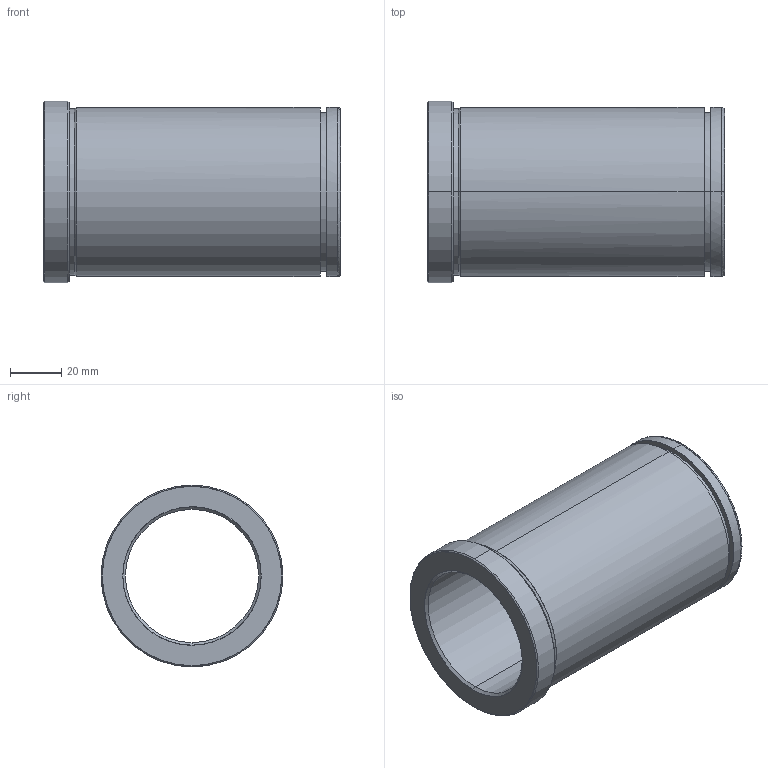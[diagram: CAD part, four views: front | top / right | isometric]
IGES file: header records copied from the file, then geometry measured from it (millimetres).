
Start section: START RECORD GO HERE.
Global section: file name: 553-52X116.igs; native system: DASSAULT SYSTEMES CATIA V5 R20 - www.3ds.com; preprocessor: CATIA Version 5 Release 20 ; author: Utente; organization: NB04-ASUS; date: 20210608.200210; units: millimetre
Bounding box: 116 x 71 x 71 mm (x, y, z)
Surface area: 47218.3 mm2 (no closed solid volume)
Topology: 0 solids, 0 shells, 29 faces, 184 edges, 184 vertices
Faces by surface type: revolution 24, plane 5
